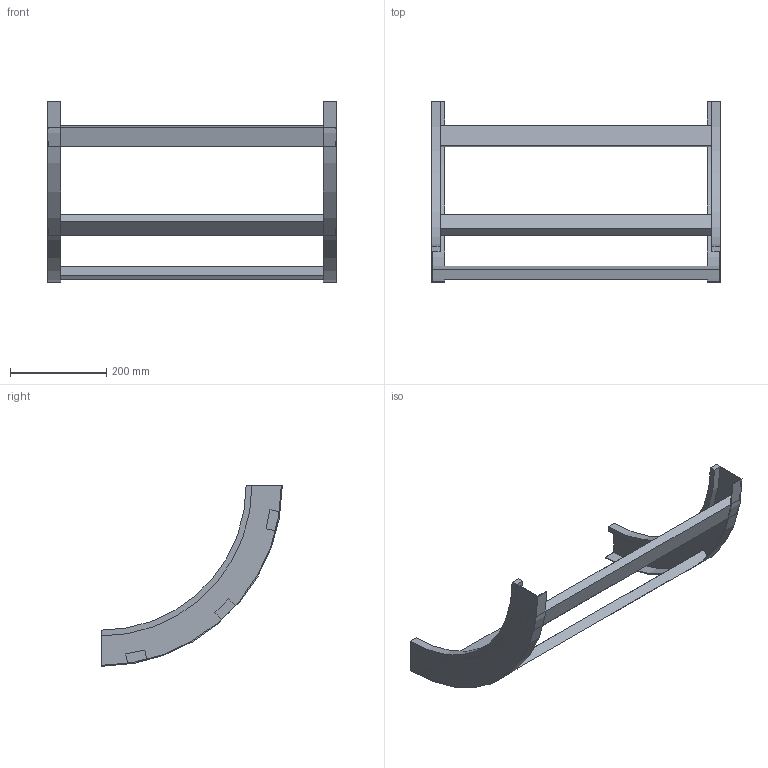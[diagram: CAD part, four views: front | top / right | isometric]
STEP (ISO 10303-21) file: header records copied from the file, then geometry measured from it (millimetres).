
FILE_DESCRIPTION (( 'STEP AP214' ), '1' );
FILE_NAME ('B2X30B3C600XX.step', '2025-03-20T10:25:27', ( '' ), ( '' ), 'SwSTEP 2.0', 'SolidWorks 2023', '' );
FILE_SCHEMA (( 'AUTOMOTIVE_DESIGN' ));
Length unit declared in the file: millimetre
Products named in the file (3): B2_LONGH.SALITA_90°_H75_R300; TRAVERSINO_600; B2X30B3C600XX
Assembly tree (5 placements, depth 2):
  B2X30B3C600XX
    B2_LONGH.SALITA_90°_H75_R300  x2
    TRAVERSINO_600  x3
Bounding box: 600 x 375 x 375 mm (x, y, z)
Volume: 1850645.8 mm3; surface area: 475570.5 mm2
Topology: 5 solids, 5 shells, 38 faces, 84 edges, 56 vertices
Faces by surface type: plane 30, cylinder 8
Entity records: 560 total; most frequent: DIRECTION 92, CARTESIAN_POINT 84, ORIENTED_EDGE 72, EDGE_CURVE 36, AXIS2_PLACEMENT_3D 32, LINE 28, VECTOR 28, VERTEX_POINT 24
